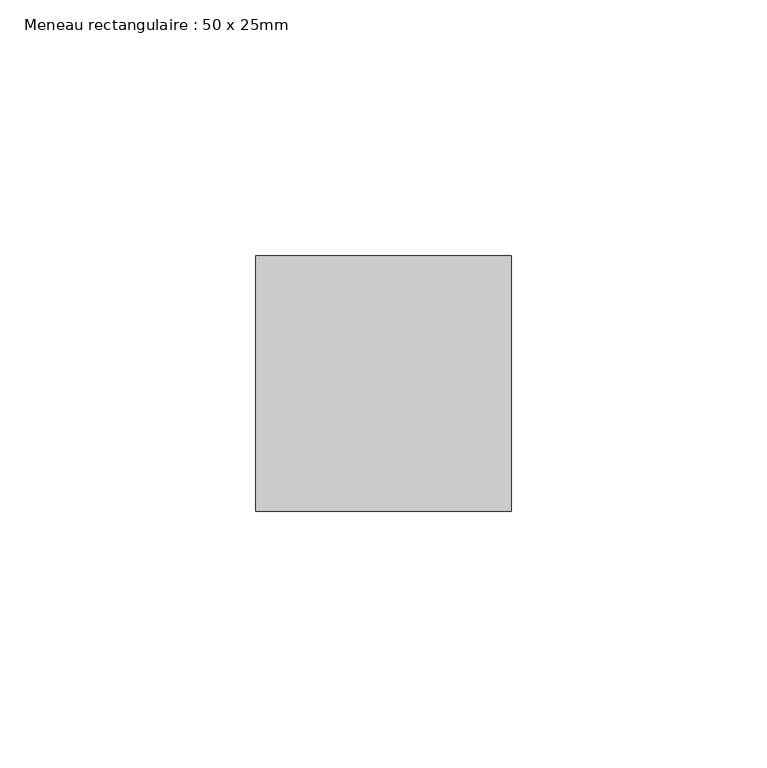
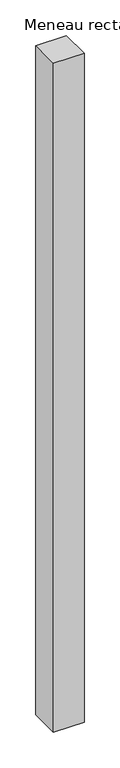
"""IFC4 building model written with IfcOpenShell, lengths in millimetres: member geometry, Meneau rectangulaire : 50 x 25mm."""

from ifc_helpers import new_model, si_unit, frame, origin, place, context, project, spatial, polyline, outline, extrude, source, transform, mapped, element, save


def meneau_rectangulaire_50_x_25mm_4a61ca04(model_context):
    return source(origin(), model_context, "Body", "SweptSolid", [
        extrude(outline(polyline([(25.0, 0.0), (25.0, -50.0), (-25.0, -50.0), (-25.0, 0.0), (25.0, 0.0)])), frame((0.0, 0.0, -1147.3964655), z_axis=(0.0, 0.0, 1.0), x_axis=(1.0, 0.0, 0.0)), (0.0, 0.0, 1.0), 1147.3964655),
    ])


if __name__ == "__main__":
    model = new_model("IFC4")
    model_context = context("Model", 3, world=origin())
    ifc_project = project(units=[si_unit("LENGTHUNIT", "METRE", prefix="MILLI")], contexts=[model_context])
    site = spatial("IfcSite", under=ifc_project)
    building = spatial("IfcBuilding", under=site)
    placement = place(None, origin())
    meneau_rectangulaire_50_x_25mm_shape = meneau_rectangulaire_50_x_25mm_4a61ca04(model_context)
    element("IfcMember", 1, ObjectType="Meneau rectangulaire : 50 x 25mm", at=placement, inside=building, context=model_context, shape_type="MappedRepresentation", body=[
        mapped(meneau_rectangulaire_50_x_25mm_shape, transform((0.0, 0.0, 0.0), x_axis=(1.0, 0.0, 0.0), y_axis=(0.0, 1.0, 0.0), z_axis=(0.0, 0.0, 1.0))),
    ])
    save(model, "model.ifc")
